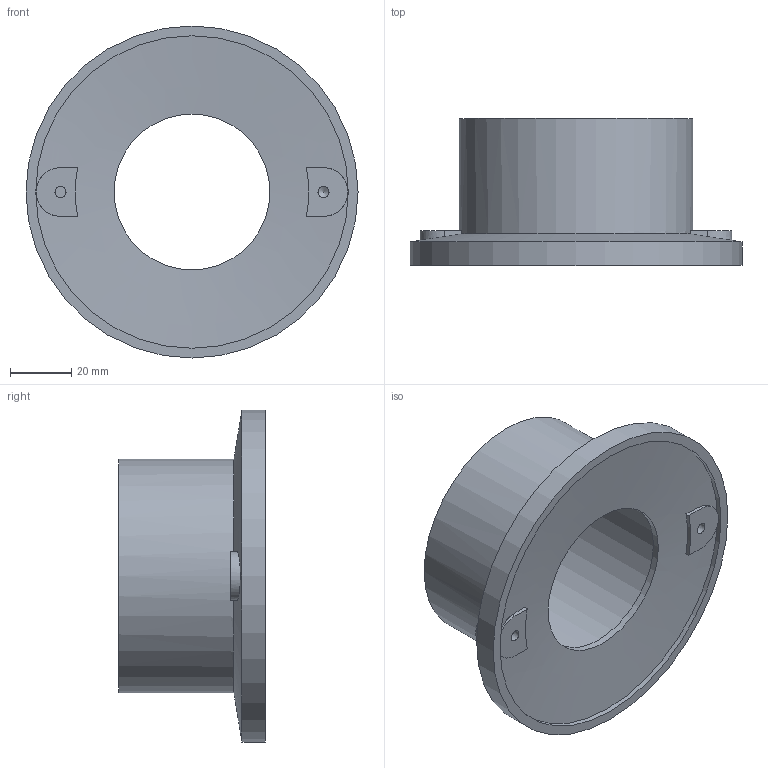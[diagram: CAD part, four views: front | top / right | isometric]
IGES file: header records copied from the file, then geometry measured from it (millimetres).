
Global section: file name: No Iges File Name specified; native system: AutoDesk Inventor R5.0; preprocessor: AutoDesk Inventor Iges Exporter R5.0; author: No Author specified; organization: No Organization specified; date: 20070112.200131; units: inch
Bounding box: 108.2 x 47.81 x 108.2 mm (x, y, z)
Surface area: 35266.4 mm2 (no closed solid volume)
Topology: 0 solids, 0 shells, 33 faces, 144 edges, 131 vertices
Faces by surface type: revolution 13, bspline 11, plane 9
